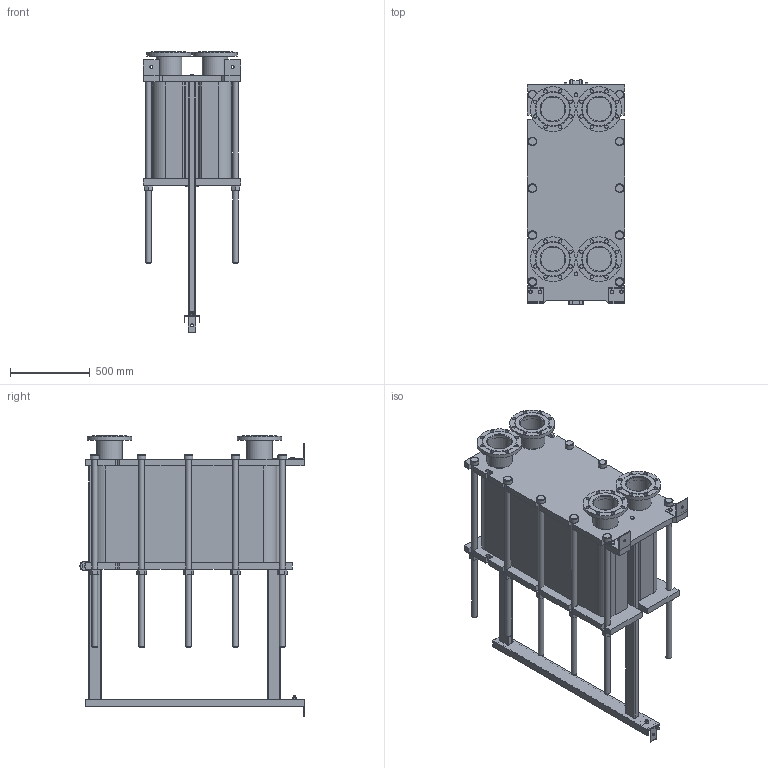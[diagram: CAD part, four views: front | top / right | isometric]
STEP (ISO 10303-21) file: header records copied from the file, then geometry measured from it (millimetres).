
FILE_DESCRIPTION(/* description */ (''),/* implementation_level */ '2;1');
FILE_NAME(/* name */ 'C:\Users\zhuro\Desktop\ENCO\TO\ЭН-041\ЭН-0,5-041-176-1.stp',/* time_stamp */ '2022-06-06T11:04:54+03:00',/* author */ ('zhuro'),/* organization */ (''),/* preprocessor_version */ 'ST-DEVELOPER v18.1',/* originating_system */ 'Autodesk Inventor 2022',/* authorisation */ '');
FILE_SCHEMA (('AUTOMOTIVE_DESIGN { 1 0 10303 214 3 1 1 }'));
Length unit declared in the file: millimetre
Products named in the file (1): ЭН-0,5-041-176-1
Bounding box: 610 x 1406.5 x 1760 mm (x, y, z)
Volume: 427325782 mm3; surface area: 10700248.8 mm2
Topology: 52 solids, 52 shells, 711 faces, 1696 edges, 1094 vertices
Faces by surface type: plane 487, cylinder 177, cone 41, torus 6
Full cylindrical faces by diameter (mm): 8 x4, 10 x2, 16 x8, 18 x3, 22 x32, 36 x24, 50 x1, 54 x10, 60 x12, 151 x4, 161 x8, 280 x4
Entity records: 22667 total; most frequent: CARTESIAN_POINT 5230, DIRECTION 3644, ORIENTED_EDGE 3392, EDGE_CURVE 1696, AXIS2_PLACEMENT_3D 1272, LINE 1100, VECTOR 1100, VERTEX_POINT 1094
